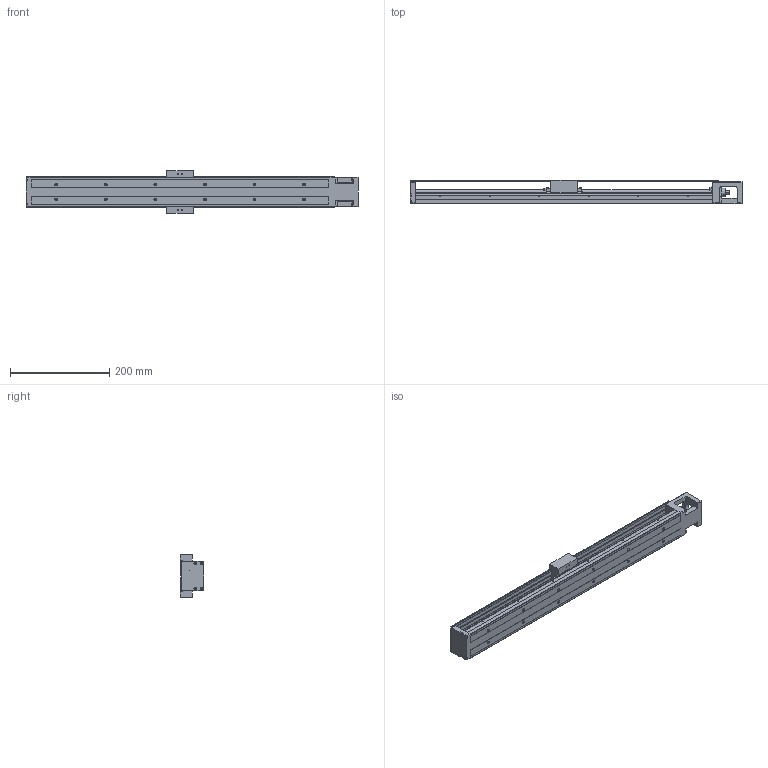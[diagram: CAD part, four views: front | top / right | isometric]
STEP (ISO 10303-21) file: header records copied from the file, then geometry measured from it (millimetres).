
FILE_DESCRIPTION (( 'STEP AP203' ), '1' );
FILE_NAME ('HKK60D10C-600A1-F0C.stp', '2021-11-25T07:18:27', ( '' ), ( '' ), 'SwSTEP 2.0', 'SolidWorks 2018', '' );
FILE_SCHEMA (( 'CONFIG_CONTROL_DESIGN' ));
Length unit declared in the file: millimetre
Products named in the file (1): HKK60D10C-600A1-F0C
Bounding box: 670 x 48 x 86 mm (x, y, z)
Volume: 786279.5 mm3; surface area: 280936.9 mm2
Topology: 2 solids, 10 shells, 865 faces, 2327 edges, 1485 vertices
Faces by surface type: plane 527, cylinder 262, cone 66, torus 8, bspline 2
Entity records: 27319 total; most frequent: CARTESIAN_POINT 5591, ORIENTED_EDGE 4522, DIRECTION 4441, EDGE_CURVE 2261, VECTOR 1577, LINE 1577, VERTEX_POINT 1485, AXIS2_PLACEMENT_3D 1432
